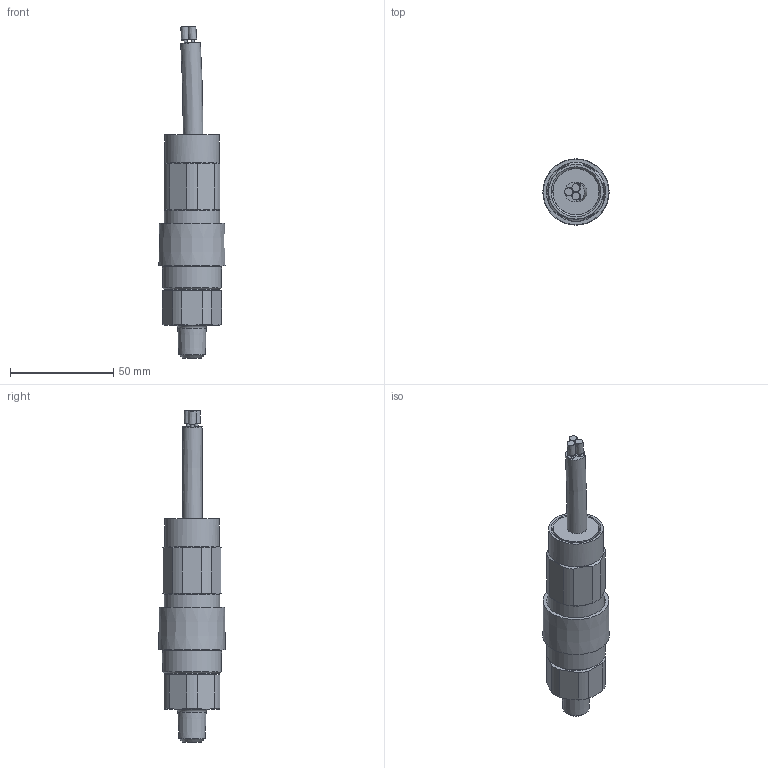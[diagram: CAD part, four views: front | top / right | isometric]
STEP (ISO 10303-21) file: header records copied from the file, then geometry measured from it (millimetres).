
FILE_DESCRIPTION (( 'STEP AP214' ), '1' );
FILE_NAME ('10-E13_E16_V5.STEP', '2025-03-04T21:07:50', ( '' ), ( '' ), 'SwSTEP 2.0', 'SolidWorks 2023', '' );
FILE_SCHEMA (( 'AUTOMOTIVE_DESIGN' ));
Length unit declared in the file: inch
Products named in the file (1): 10-E13_E16_V5
Bounding box: 32.11 x 32.11 x 160.75 mm (x, y, z)
Surface area: 17057.4 mm2 (no closed solid volume)
Topology: 0 solids, 18 shells, 83 faces, 184 edges, 120 vertices
Faces by surface type: plane 31, cone 20, cylinder 19, bspline 11, torus 2
Full cylindrical faces by diameter (mm): 0.851 x1, 3.556 x1, 22.352 x1, 26.467 x1, 26.873 x2, 28.575 x1
Entity records: 2519 total; most frequent: CARTESIAN_POINT 863, DIRECTION 354, ORIENTED_EDGE 262, AXIS2_PLACEMENT_3D 162, EDGE_CURVE 144, EDGE_LOOP 128, VERTEX_POINT 114, FACE_OUTER_BOUND 103
